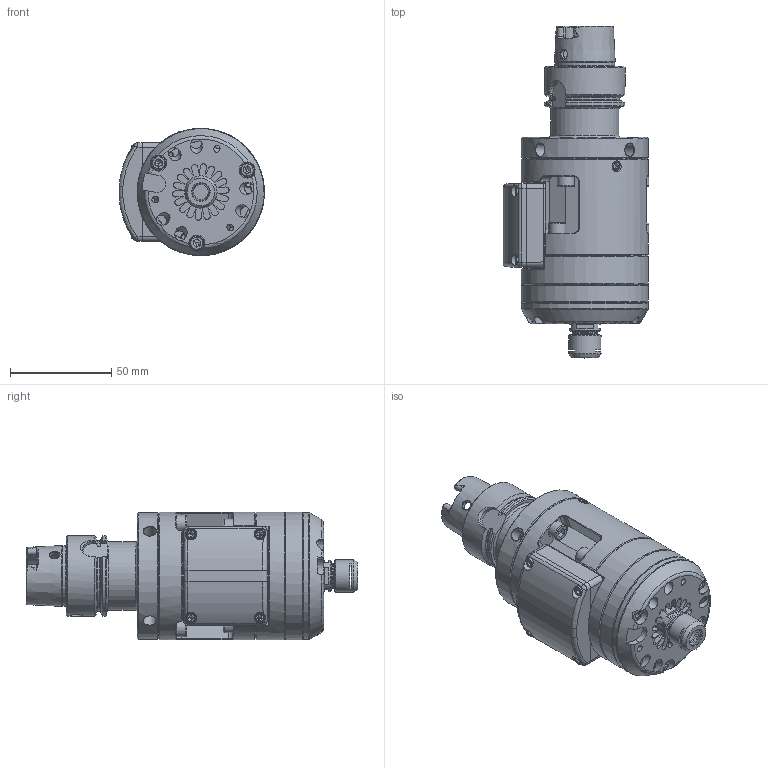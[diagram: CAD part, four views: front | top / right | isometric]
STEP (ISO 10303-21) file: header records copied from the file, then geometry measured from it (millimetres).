
FILE_DESCRIPTION (( 'STEP AP214' ), '1' );
FILE_NAME ('TJS GJET V4 HSK A40.STEP', '2025-06-18T13:11:31', ( 'pc' ), ( '' ), 'SwSTEP 2.0', 'SolidWorks 2024', '' );
FILE_SCHEMA (( 'AUTOMOTIVE_DESIGN' ));
Length unit declared in the file: millimetre
Products named in the file (1): TJS GJET V4 HSK A40
Bounding box: 72.25 x 164.3 x 63 mm (x, y, z)
Volume: 196071.5 mm3; surface area: 93974.7 mm2
Topology: 28 solids, 28 shells, 1517 faces, 3781 edges, 2349 vertices
Faces by surface type: plane 708, cylinder 373, cone 264, torus 97, bspline 75
Full cylindrical faces by diameter (mm): 2.5 x6, 3 x3, 3.3 x6, 4.2 x11, 4.3 x2, 4.5 x5, 4.6 x2, 5 x14, 5.5 x3, 5.8 x3, 6 x12, 6.2 x3, 6.4 x4, 6.5 x1, 7 x3, 7.5 x1, 7.65 x1, 7.8 x3, 8.5 x6, 11 x1, 11.21 x1, 11.3 x1, 12 x1, 12.2 x1, 12.3 x1, 12.5 x1, 13 x1, 13.2 x1, 15.5 x1, 16 x1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
Entity records: 53642 total; most frequent: CARTESIAN_POINT 19791, DIRECTION 6817, ORIENTED_EDGE 6718, EDGE_CURVE 3359, AXIS2_PLACEMENT_3D 2592, VERTEX_POINT 2228, EDGE_LOOP 1945, FACE_OUTER_BOUND 1693
